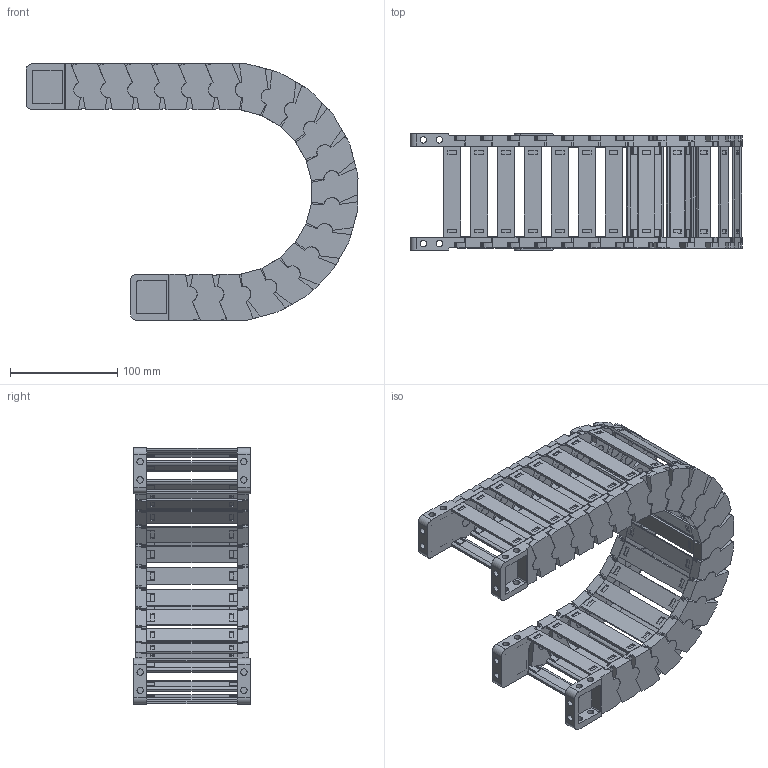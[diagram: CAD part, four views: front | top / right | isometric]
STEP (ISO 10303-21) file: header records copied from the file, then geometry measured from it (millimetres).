
FILE_DESCRIPTION((''),'2;1');
FILE_NAME('JY-35X77-R100_ASM','2025-07-23T15:14:51',('admin'),(''),'CREO PARAMETRIC BY PTC INC, 2021023','CREO PARAMETRIC BY PTC INC, 2021023','');
FILE_SCHEMA(('CONFIG_CONTROL_DESIGN','GEOMETRIC_VALIDATION_PROPERTIES_MIM'));
Length unit declared in the file: millimetre
Products named in the file (12): 35XL-L_1; 25-35XL-YP_1; 35XL-R_1; ASM0001_ASM_1_ASM; 35-LTT-A-L_1; 35-LTT-A-R_1; 35XL-LTT-A_ASM_1_ASM; 35-LTT-B-L_1; 35-LTT-B-R_1; 35XL-LTT-B_ASM_1_ASM; JY-35X77-R100_ASM_1_ASM; JY-35X77-R100_ASM
Assembly tree (34 placements, depth 4):
  JY-35X77-R100_ASM
    JY-35X77-R100_ASM_1_ASM
      ASM0001_ASM_1_ASM  x19
        35XL-L_1
        25-35XL-YP_1
        35XL-R_1
      35XL-LTT-A_ASM_1_ASM
        35-LTT-A-L_1
        25-35XL-YP_1  x2
        35-LTT-A-R_1
      35XL-LTT-B_ASM_1_ASM
        35-LTT-B-L_1
        25-35XL-YP_1  x2
        35-LTT-B-R_1
Bounding box: 310.13 x 109 x 239.89 mm (x, y, z)
Volume: 616705.5 mm3; surface area: 381179.5 mm2
Topology: 84 solids, 84 shells, 3274 faces, 9830 edges, 6688 vertices
Faces by surface type: plane 2226, cylinder 1046, bspline 2
Entity records: 16635 total; most frequent: CARTESIAN_POINT 2736, DIRECTION 2504, ORIENTED_EDGE 2416, EDGE_CURVE 1208, AXIS2_PLACEMENT_3D 837, VECTOR 830, LINE 830, VERTEX_POINT 820
